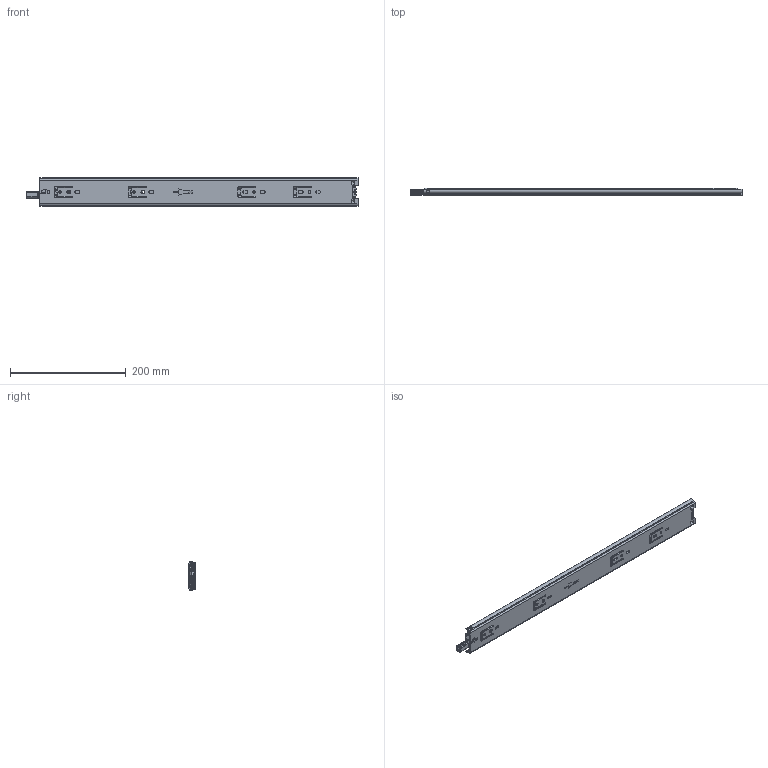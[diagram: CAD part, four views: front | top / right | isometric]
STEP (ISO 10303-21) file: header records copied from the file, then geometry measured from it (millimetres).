
FILE_DESCRIPTION((''),'2;1');
FILE_NAME('KP-50-3S-22ZUO_ASM','2023-05-05T',('jishu015'),(''),'PRO/ENGINEER BY PARAMETRIC TECHNOLOGY CORPORATION, 2010280','PRO/ENGINEER BY PARAMETRIC TECHNOLOGY CORPORATION, 2010280','');
FILE_SCHEMA(('CONFIG_CONTROL_DESIGN'));
Products named in the file (19): KP-50-01WAIKE18________________; KP-50-01ZHONGGIU20__; ZHONGGUIPEIJIAN_____________; 50BAIKOU__________; KP-53-01ZHONGGUI-1854____ASM; KP-50-01ZHUJIA-16GE43___; 4-76GANZHU________________; KP-50-01ZHUJIA-16GE23____ASM; KP-50-01NEIGUI1821; YH1050BANJI_____________; PIAN_____________; JIAO_____________; DAOPIAN__________; ZOU-1__________; KP53-0NEIGUI_________________ASM; 50ZHUTIAO________________; 50ZHUTIAO_________________ASM; CHANGGUI1045WEIJIAO232_; KP-50-3S-22ZUO_ASM
Assembly tree (67 placements, depth 3):
  KP-50-3S-22ZUO_ASM
    KP-50-01WAIKE18________________
    KP-53-01ZHONGGUI-1854____ASM
      KP-50-01ZHONGGIU20__
      ZHONGGUIPEIJIAN_____________
      50BAIKOU__________
    KP-50-01ZHUJIA-16GE23____ASM
      KP-50-01ZHUJIA-16GE43___
      4-76GANZHU________________  x40
    KP53-0NEIGUI_________________ASM
      KP-50-01NEIGUI1821
      YH1050BANJI_____________
      PIAN_____________
      JIAO_____________
      DAOPIAN__________
      ZOU-1__________
    50ZHUTIAO_________________ASM  x2
      50ZHUTIAO________________
      4-76GANZHU________________
    CHANGGUI1045WEIJIAO232_
Bounding box: 573.8 x 13 x 50 mm (x, y, z)
Volume: 164619.4 mm3; surface area: 217720.3 mm2
Topology: 72 solids, 73 shells, 1939 faces, 5634 edges, 3480 vertices
Faces by surface type: cylinder 842, plane 780, bspline 137, sphere 118, torus 25, extrusion 23, cone 14
Entity records: 65158 total; most frequent: CARTESIAN_POINT 17372, ORIENTED_EDGE 10200, DIRECTION 9788, EDGE_CURVE 5102, AXIS2_PLACEMENT_3D 3332, VERTEX_POINT 3242, VECTOR 3124, LINE 3101
